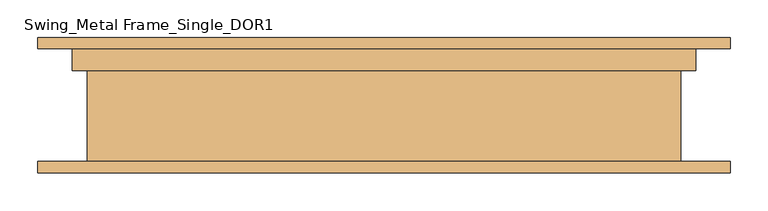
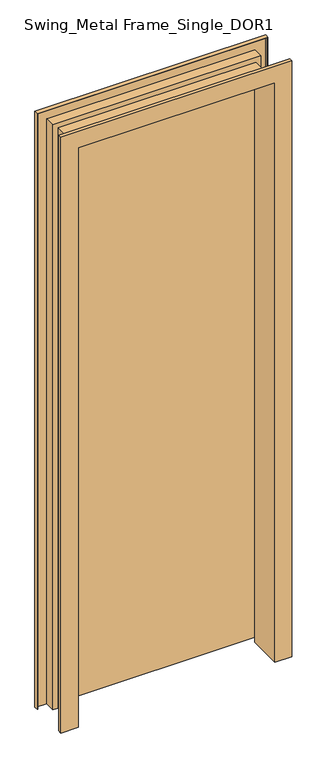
"""IFC4 building model written with IfcOpenShell, lengths in millimetres: door geometry, Swing_Metal Frame_Single_DOR1 : 2040h x 820 (2110x920 STUD)."""

from ifc_helpers import new_model, si_unit, frame, origin, place, context, project, spatial, polyline, outline, extrude, faceted_brep, source, transform, mapped, element, save


def swing_metal_frame_single_dor1_3d2ec989(model_context):
    return source(origin(), model_context, "Body", "SolidModel", [
        extrude(outline(polyline([(410.0, 90.0), (410.0, 50.0), (-410.0, 50.0), (-410.0, 90.0), (410.0, 90.0)])), frame((0.0, 0.0, 20.0), z_axis=(0.0, 0.0, 1.0), x_axis=(1.0, 0.0, 0.0)), (0.0, 0.0, 1.0), 2440.0),
        faceted_brep([(-460.0, -90.0, 0.0), (-460.0, -75.0, 0.0), (-458.0, -75.0, 0.0), (-458.0, -88.0, 0.0), (-394.0, -88.0, 0.0), (-394.0, 46.0, 0.0), (-414.0, 46.0, 0.0), (-414.0, 88.0, 0.0), (-458.0, 88.0, 0.0), (-458.0, 75.0, 0.0), (-460.0, 75.0, 0.0), (-460.0, 90.0, 0.0), (-412.0, 90.0, 0.0), (-412.0, 48.0, 0.0), (-392.0, 48.0, 0.0), (-392.0, -90.0, 0.0), (-460.0, -90.0, 2510.0), (-460.0, -75.0, 2510.0), (460.0, -75.0, 2510.0), (460.0, -75.0, 0.0), (458.0, -75.0, 0.0), (458.0, -75.0, 2508.0), (-458.0, -75.0, 2508.0), (-458.0, -88.0, 2508.0), (458.0, -88.0, 2508.0), (458.0, -88.0, 0.0), (394.0, -88.0, 0.0), (394.0, -88.0, 2444.0), (-394.0, -88.0, 2444.0), (-394.0, 46.0, 2444.0), (394.0, 46.0, 2444.0), (394.0, 46.0, 0.0), (414.0, 46.0, 0.0), (414.0, 46.0, 2464.0), (-414.0, 46.0, 2464.0), (-414.0, 88.0, 2464.0), (414.0, 88.0, 2464.0), (414.0, 88.0, 0.0), (458.0, 88.0, 0.0), (458.0, 88.0, 2508.0), (-458.0, 88.0, 2508.0), (-458.0, 75.0, 2508.0), (458.0, 75.0, 2508.0), (458.0, 75.0, 0.0), (460.0, 75.0, 0.0), (460.0, 75.0, 2510.0), (-460.0, 75.0, 2510.0), (-460.0, 90.0, 2510.0), (460.0, 90.0, 2510.0), (460.0, 90.0, 0.0), (412.0, 90.0, 0.0), (412.0, 90.0, 2462.0), (-412.0, 90.0, 2462.0), (-412.0, 48.0, 2462.0), (412.0, 48.0, 2462.0), (412.0, 48.0, 0.0), (392.0, 48.0, 0.0), (392.0, 48.0, 2442.0), (-392.0, 48.0, 2442.0), (-392.0, -90.0, 2442.0), (392.0, -90.0, 2442.0), (392.0, -90.0, 0.0), (460.0, -90.0, 0.0), (460.0, -90.0, 2510.0)], [[[0, 1, 2, 3, 4, 5, 6, 7, 8, 9, 10, 11, 12, 13, 14, 15]], [[1, 0, 16, 17]], [[2, 1, 17, 18, 19, 20, 21, 22]], [[3, 2, 22, 23]], [[4, 3, 23, 24, 25, 26, 27, 28]], [[5, 4, 28, 29]], [[6, 5, 29, 30, 31, 32, 33, 34]], [[7, 6, 34, 35]], [[8, 7, 35, 36, 37, 38, 39, 40]], [[9, 8, 40, 41]], [[10, 9, 41, 42, 43, 44, 45, 46]], [[11, 10, 46, 47]], [[12, 11, 47, 48, 49, 50, 51, 52]], [[13, 12, 52, 53]], [[14, 13, 53, 54, 55, 56, 57, 58]], [[15, 14, 58, 59]], [[0, 15, 59, 60, 61, 62, 63, 16]], [[18, 63, 62, 19]], [[62, 61, 56, 55, 50, 49, 44, 43, 38, 37, 32, 31, 26, 25, 20, 19]], [[24, 21, 20, 25]], [[30, 27, 26, 31]], [[36, 33, 32, 37]], [[42, 39, 38, 43]], [[48, 45, 44, 49]], [[54, 51, 50, 55]], [[60, 57, 56, 61]], [[17, 16, 63, 18]], [[23, 22, 21, 24]], [[29, 28, 27, 30]], [[35, 34, 33, 36]], [[41, 40, 39, 42]], [[47, 46, 45, 48]], [[53, 52, 51, 54]], [[59, 58, 57, 60]]]),
    ])


if __name__ == "__main__":
    model = new_model("IFC4")
    model_context = context("Model", 3, world=origin())
    ifc_project = project(units=[si_unit("LENGTHUNIT", "METRE", prefix="MILLI")], contexts=[model_context])
    site = spatial("IfcSite", under=ifc_project)
    building = spatial("IfcBuilding", under=site)
    placement = place(None, origin())
    swing_metal_frame_single_dor1_shape = swing_metal_frame_single_dor1_3d2ec989(model_context)
    element("IfcDoor", 1, ObjectType="Swing_Metal Frame_Single_DOR1 : 2040h x 820 (2110x920 STUD)", at=placement, inside=building, context=model_context, shape_type="MappedRepresentation", body=[
        mapped(swing_metal_frame_single_dor1_shape, transform((0.0, 0.0, 0.0), x_axis=(1.0, 0.0, 0.0), y_axis=(0.0, 1.0, 0.0), z_axis=(0.0, 0.0, 1.0))),
    ])
    save(model, "model.ifc")
